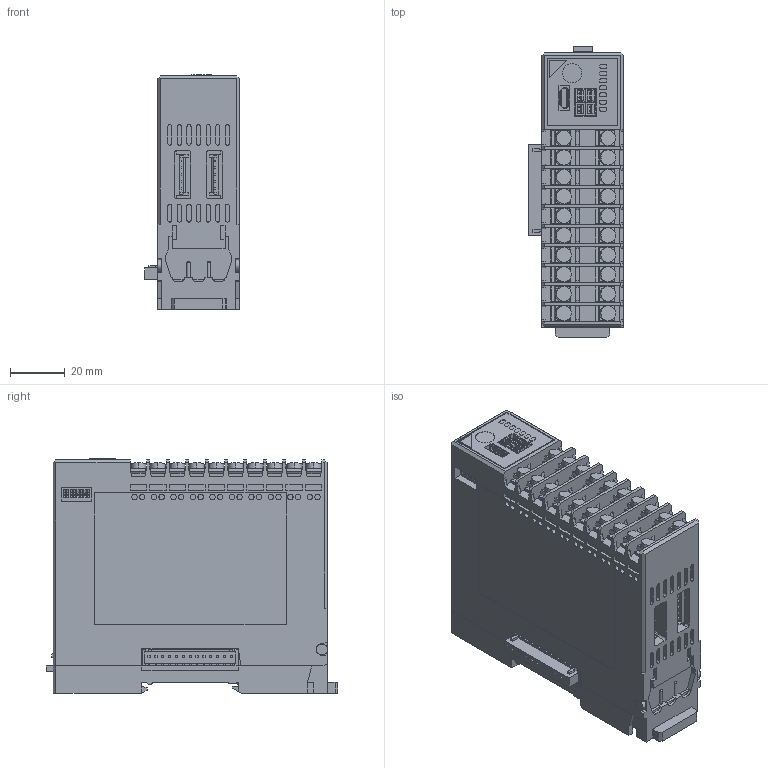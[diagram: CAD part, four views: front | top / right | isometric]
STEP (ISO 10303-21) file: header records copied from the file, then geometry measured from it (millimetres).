
FILE_DESCRIPTION (( 'STEP AP203' ), '1' );
FILE_NAME ('QTC1-40T_230515.STEP', '2023-05-15T06:54:00', ( '' ), ( '' ), 'SwSTEP 2.0', 'SolidWorks 2022', '' );
FILE_SCHEMA (( 'CONFIG_CONTROL_DESIGN' ));
Length unit declared in the file: millimetre
Products named in the file (1): QTC1-40T_230515
Bounding box: 34.6 x 106.3 x 85.6 mm (x, y, z)
Volume: 233559.9 mm3; surface area: 44261.5 mm2
Topology: 21 solids, 23 shells, 2044 faces, 5225 edges, 3456 vertices
Faces by surface type: plane 1656, cylinder 386, torus 2
Entity records: 61176 total; most frequent: CARTESIAN_POINT 10822, ORIENTED_EDGE 10450, DIRECTION 10001, EDGE_CURVE 5225, VECTOR 4475, LINE 4475, VERTEX_POINT 3456, AXIS2_PLACEMENT_3D 2763
